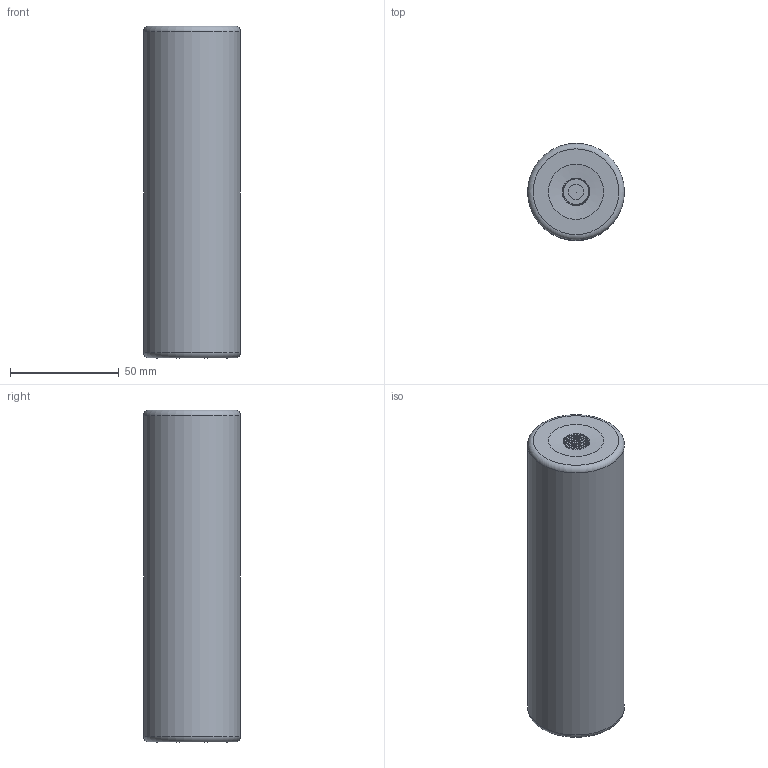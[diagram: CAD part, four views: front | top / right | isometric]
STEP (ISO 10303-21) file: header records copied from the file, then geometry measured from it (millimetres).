
FILE_DESCRIPTION(/* description */ (''),/* implementation_level */ '2;1');
FILE_NAME(/* name */ 'C:/Users/mavor/Desktop/3D Printer/Misc. Files/STL/Saturn (public)/STEP/S3-1_no_exit_hole.step',/* time_stamp */ '2021-01-21T15:43:37-05:00',/* author */ (''),/* organization */ (''),/* preprocessor_version */ 'ST-DEVELOPER v18.1',/* originating_system */ 'Autodesk Translation Framework v9.7.1.1290',/* authorisation */ '');
FILE_SCHEMA (('AUTOMOTIVE_DESIGN { 1 0 10303 214 3 1 1 }'));
Length unit declared in the file: millimetre
Products named in the file (1): 22can.2
Bounding box: 44.45 x 44.45 x 152.4 mm (x, y, z)
Volume: 182695.7 mm3; surface area: 58015.8 mm2
Topology: 2 solids, 2 shells, 211 faces, 510 edges, 313 vertices
Faces by surface type: bspline 91, cylinder 61, cone 23, torus 20, plane 16
Full cylindrical faces by diameter (mm): 7.112 x1, 7.62 x6, 11.824 x16, 12.7 x15, 17.78 x5, 20.32 x5, 25.4 x6, 31.75 x2, 44.45 x1
Entity records: 12202 total; most frequent: CARTESIAN_POINT 7556, ORIENTED_EDGE 1018, DIRECTION 915, EDGE_CURVE 509, AXIS2_PLACEMENT_3D 400, VERTEX_POINT 313, EDGE_LOOP 240, FACE_OUTER_BOUND 211
